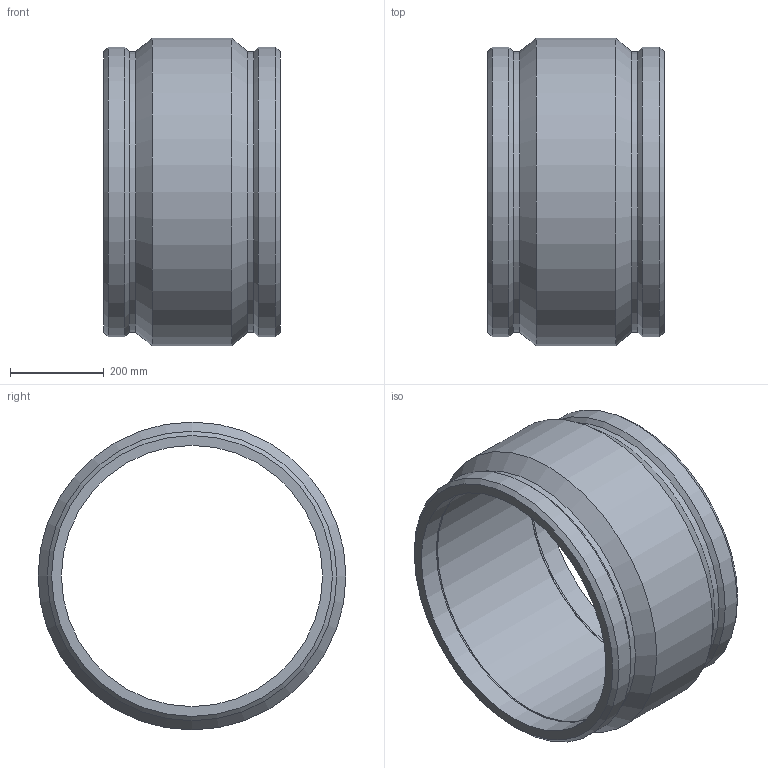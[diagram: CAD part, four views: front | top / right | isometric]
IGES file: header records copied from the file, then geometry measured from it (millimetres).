
Global section: file name: 5901B003220.ipt; native system: Autodesk Inventor 2019; preprocessor: unknown; author: KIM; date: 20210830.100900; units: inch
Bounding box: 375.92 x 655.83 x 655.83 mm (x, y, z)
Volume: 27379346.1 mm3; surface area: 1553917.6 mm2
Topology: 1 solids, 1 shells, 20 faces, 44 edges, 28 vertices
Faces by surface type: cone 6, cylinder 5, revolution 5, plane 4
Full cylindrical faces by diameter (mm): 597.984 x2, 616.478 x2, 655.828 x1
